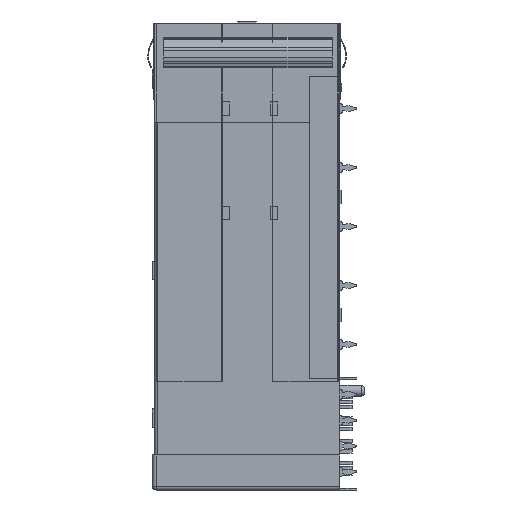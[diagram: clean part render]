
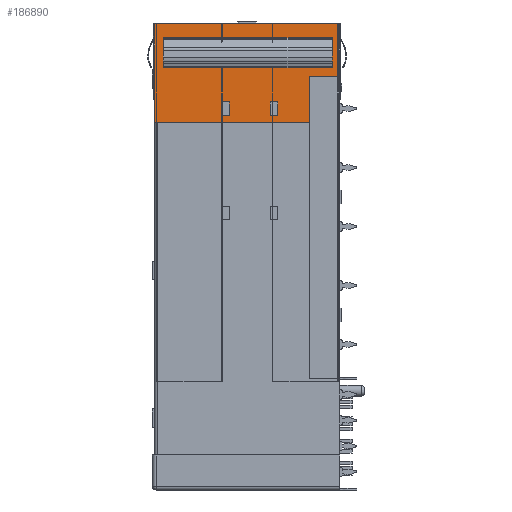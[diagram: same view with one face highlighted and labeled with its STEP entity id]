
A CAD part, left-side view. The second image highlights one B-rep face of the part: STEP entity #186890.
In plain terms, the highlighted planar face has unit normal (-1, 0, 0).
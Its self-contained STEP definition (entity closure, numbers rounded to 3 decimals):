
#3290 = CARTESIAN_POINT ( 'NONE',  ( -85.75, 4.1, -13.4 ) ) ;
#4496 = ORIENTED_EDGE ( 'NONE', *, *, #221748, .T. ) ;
#5109 = EDGE_CURVE ( 'NONE', #61544, #203919, #84224, .T. ) ;
#6287 = CARTESIAN_POINT ( 'NONE',  ( -85.75, 25.1, 0. ) ) ;
#6503 = EDGE_CURVE ( 'NONE', #62899, #101617, #46810, .T. ) ;
#9929 = VECTOR ( 'NONE', #197102, 1000. ) ;
#12576 = VERTEX_POINT ( 'NONE', #88617 ) ;
#27555 = DIRECTION ( 'NONE',  ( 0., 0., 1. ) ) ;
#29299 = CARTESIAN_POINT ( 'NONE',  ( -85.75, 4.1, 0. ) ) ;
#38853 = LINE ( 'NONE', #236778, #78860 ) ;
#40020 = CARTESIAN_POINT ( 'NONE',  ( -85.75, 0.1, -7.1 ) ) ;
#42141 = CARTESIAN_POINT ( 'NONE',  ( -85.75, 1.05, -2.181 ) ) ;
#43588 = CARTESIAN_POINT ( 'NONE',  ( -85.75, 16., -10.6 ) ) ;
#43728 = LINE ( 'NONE', #204482, #207304 ) ;
#46810 = LINE ( 'NONE', #196179, #9929 ) ;
#47592 = DIRECTION ( 'NONE',  ( 0., 0., -1. ) ) ;
#54723 = CARTESIAN_POINT ( 'NONE',  ( -85.75, 15., -10.6 ) ) ;
#56077 = LINE ( 'NONE', #173270, #106074 ) ;
#56427 = LINE ( 'NONE', #93618, #266545 ) ;
#56984 = VERTEX_POINT ( 'NONE', #105960 ) ;
#59899 = EDGE_LOOP ( 'NONE', ( #261047, #215066, #60477, #186480 ) ) ;
#60477 = ORIENTED_EDGE ( 'NONE', *, *, #174240, .T. ) ;
#61427 = EDGE_CURVE ( 'NONE', #265617, #191544, #123913, .T. ) ;
#61544 = VERTEX_POINT ( 'NONE', #131507 ) ;
#62899 = VERTEX_POINT ( 'NONE', #67435 ) ;
#66507 = EDGE_LOOP ( 'NONE', ( #94278, #165247, #126407, #142136 ) ) ;
#67435 = CARTESIAN_POINT ( 'NONE',  ( -85.75, 16., -12.4 ) ) ;
#68377 = VECTOR ( 'NONE', #160784, 1000. ) ;
#74154 = EDGE_CURVE ( 'NONE', #191616, #62899, #56077, .T. ) ;
#78860 = VECTOR ( 'NONE', #196647, 1000. ) ;
#79139 = LINE ( 'NONE', #133734, #256140 ) ;
#81978 = VERTEX_POINT ( 'NONE', #144191 ) ;
#82102 = LINE ( 'NONE', #213131, #185775 ) ;
#84224 = LINE ( 'NONE', #257382, #167791 ) ;
#85246 = DIRECTION ( 'NONE',  ( 0., 1., 0. ) ) ;
#85804 = EDGE_CURVE ( 'NONE', #225330, #61544, #79139, .T. ) ;
#87100 = VECTOR ( 'NONE', #92296, 1000. ) ;
#88617 = CARTESIAN_POINT ( 'NONE',  ( -85.75, 23.95, -1.9 ) ) ;
#89349 = EDGE_LOOP ( 'NONE', ( #127933, #4496, #193826, #165682 ) ) ;
#91412 = CARTESIAN_POINT ( 'NONE',  ( -85.75, 0., 0. ) ) ;
#92296 = DIRECTION ( 'NONE',  ( 0., 1., 0. ) ) ;
#92703 = DIRECTION ( 'NONE',  ( 0., 0., -1. ) ) ;
#93618 = CARTESIAN_POINT ( 'NONE',  ( -85.75, 1.05, -1.9 ) ) ;
#94278 = ORIENTED_EDGE ( 'NONE', *, *, #135115, .F. ) ;
#94767 = CARTESIAN_POINT ( 'NONE',  ( -85.75, 8.45, -12.4 ) ) ;
#97085 = ORIENTED_EDGE ( 'NONE', *, *, #5109, .T. ) ;
#97221 = CARTESIAN_POINT ( 'NONE',  ( -85.75, 0.1, 0. ) ) ;
#97414 = ORIENTED_EDGE ( 'NONE', *, *, #134260, .T. ) ;
#98740 = EDGE_LOOP ( 'NONE', ( #252980, #262486, #141874, #97414, #166478, #97085 ) ) ;
#101190 = LINE ( 'NONE', #189484, #124456 ) ;
#101617 = VERTEX_POINT ( 'NONE', #43588 ) ;
#103550 = DIRECTION ( 'NONE',  ( 0., 0., -1. ) ) ;
#103603 = LINE ( 'NONE', #42141, #87100 ) ;
#105960 = CARTESIAN_POINT ( 'NONE',  ( -85.75, 1.05, -2.181 ) ) ;
#106074 = VECTOR ( 'NONE', #238510, 1000. ) ;
#111894 = VECTOR ( 'NONE', #27555, 1000. ) ;
#114510 = CARTESIAN_POINT ( 'NONE',  ( -85.75, 9.45, -12.4 ) ) ;
#114511 = FACE_BOUND ( 'NONE', #59899, .T. ) ;
#116397 = DIRECTION ( 'NONE',  ( 0., 1., 0. ) ) ;
#123913 = LINE ( 'NONE', #97221, #180745 ) ;
#124456 = VECTOR ( 'NONE', #103550, 1000. ) ;
#125591 = AXIS2_PLACEMENT_3D ( 'NONE', #91412, #219276, #47592 ) ;
#126407 = ORIENTED_EDGE ( 'NONE', *, *, #247870, .T. ) ;
#127092 = VERTEX_POINT ( 'NONE', #114510 ) ;
#127933 = ORIENTED_EDGE ( 'NONE', *, *, #128421, .T. ) ;
#128421 = EDGE_CURVE ( 'NONE', #127092, #260129, #178616, .T. ) ;
#129646 = PLANE ( 'NONE',  #125591 ) ;
#131507 = CARTESIAN_POINT ( 'NONE',  ( -85.75, 25.1, -13.4 ) ) ;
#133734 = CARTESIAN_POINT ( 'NONE',  ( -85.75, 25.1, 0. ) ) ;
#134260 = EDGE_CURVE ( 'NONE', #191544, #225330, #82102, .T. ) ;
#135115 = EDGE_CURVE ( 'NONE', #172280, #12576, #241978, .T. ) ;
#137795 = CARTESIAN_POINT ( 'NONE',  ( -85.75, 8.45, -10.6 ) ) ;
#138336 = CARTESIAN_POINT ( 'NONE',  ( -85.75, 23.95, -2.181 ) ) ;
#141874 = ORIENTED_EDGE ( 'NONE', *, *, #61427, .T. ) ;
#142136 = ORIENTED_EDGE ( 'NONE', *, *, #222698, .F. ) ;
#144191 = CARTESIAN_POINT ( 'NONE',  ( -85.75, 4.1, -7.1 ) ) ;
#145095 = VECTOR ( 'NONE', #207473, 1000. ) ;
#146557 = EDGE_CURVE ( 'NONE', #203919, #81978, #238277, .T. ) ;
#148790 = CARTESIAN_POINT ( 'NONE',  ( -85.75, 9.45, 0. ) ) ;
#151778 = LINE ( 'NONE', #274460, #145095 ) ;
#153976 = EDGE_CURVE ( 'NONE', #101617, #261885, #43728, .T. ) ;
#156199 = VERTEX_POINT ( 'NONE', #138336 ) ;
#157418 = DIRECTION ( 'NONE',  ( 0., -1., 0. ) ) ;
#160784 = DIRECTION ( 'NONE',  ( 0., 0., -1. ) ) ;
#161535 = VERTEX_POINT ( 'NONE', #94767 ) ;
#163048 = CARTESIAN_POINT ( 'NONE',  ( -85.75, 15., -12.4 ) ) ;
#165247 = ORIENTED_EDGE ( 'NONE', *, *, #205504, .T. ) ;
#165682 = ORIENTED_EDGE ( 'NONE', *, *, #263464, .T. ) ;
#166478 = ORIENTED_EDGE ( 'NONE', *, *, #85804, .T. ) ;
#167791 = VECTOR ( 'NONE', #157418, 1000. ) ;
#172280 = VERTEX_POINT ( 'NONE', #276381 ) ;
#173270 = CARTESIAN_POINT ( 'NONE',  ( -85.75, 0., -12.4 ) ) ;
#174240 = EDGE_CURVE ( 'NONE', #261885, #191616, #198857, .T. ) ;
#178011 = FACE_OUTER_BOUND ( 'NONE', #98740, .T. ) ;
#178485 = DIRECTION ( 'NONE',  ( 0., 0., 1. ) ) ;
#178546 = VECTOR ( 'NONE', #116397, 1000. ) ;
#178616 = LINE ( 'NONE', #148790, #111894 ) ;
#180745 = VECTOR ( 'NONE', #267964, 1000. ) ;
#183167 = CARTESIAN_POINT ( 'NONE',  ( -85.75, 8.45, 0. ) ) ;
#185775 = VECTOR ( 'NONE', #85246, 1000. ) ;
#186480 = ORIENTED_EDGE ( 'NONE', *, *, #74154, .T. ) ;
#186890 = ADVANCED_FACE ( 'NONE', ( #274897, #114511, #254799, #178011 ), #129646, .F. ) ;
#189484 = CARTESIAN_POINT ( 'NONE',  ( -85.75, 23.95, -1.9 ) ) ;
#191544 = VERTEX_POINT ( 'NONE', #246104 ) ;
#191616 = VERTEX_POINT ( 'NONE', #163048 ) ;
#193826 = ORIENTED_EDGE ( 'NONE', *, *, #276376, .T. ) ;
#196179 = CARTESIAN_POINT ( 'NONE',  ( -85.75, 16., 0. ) ) ;
#196373 = DIRECTION ( 'NONE',  ( 0., 0., -1. ) ) ;
#196647 = DIRECTION ( 'NONE',  ( 0., 1., 0. ) ) ;
#197102 = DIRECTION ( 'NONE',  ( 0., 0., 1. ) ) ;
#198857 = LINE ( 'NONE', #243466, #238938 ) ;
#201452 = CARTESIAN_POINT ( 'NONE',  ( -85.75, 1.05, -1.9 ) ) ;
#203919 = VERTEX_POINT ( 'NONE', #3290 ) ;
#204482 = CARTESIAN_POINT ( 'NONE',  ( -85.75, 0., -10.6 ) ) ;
#205302 = LINE ( 'NONE', #183167, #68377 ) ;
#205504 = EDGE_CURVE ( 'NONE', #172280, #56984, #56427, .T. ) ;
#207299 = DIRECTION ( 'NONE',  ( 0., -1., 0. ) ) ;
#207304 = VECTOR ( 'NONE', #207299, 1000. ) ;
#207473 = DIRECTION ( 'NONE',  ( 0., -1., 0. ) ) ;
#213131 = CARTESIAN_POINT ( 'NONE',  ( -85.75, 25.3, 0. ) ) ;
#215066 = ORIENTED_EDGE ( 'NONE', *, *, #153976, .T. ) ;
#219276 = DIRECTION ( 'NONE',  ( 1., 0., 0. ) ) ;
#221748 = EDGE_CURVE ( 'NONE', #260129, #229189, #151778, .T. ) ;
#222698 = EDGE_CURVE ( 'NONE', #12576, #156199, #101190, .T. ) ;
#225330 = VERTEX_POINT ( 'NONE', #6287 ) ;
#229189 = VERTEX_POINT ( 'NONE', #137795 ) ;
#230298 = DIRECTION ( 'NONE',  ( 0., -1., 0. ) ) ;
#236778 = CARTESIAN_POINT ( 'NONE',  ( -85.75, 0., -12.4 ) ) ;
#238277 = LINE ( 'NONE', #29299, #254881 ) ;
#238510 = DIRECTION ( 'NONE',  ( 0., 1., 0. ) ) ;
#238938 = VECTOR ( 'NONE', #269467, 1000. ) ;
#241978 = LINE ( 'NONE', #201452, #178546 ) ;
#243466 = CARTESIAN_POINT ( 'NONE',  ( -85.75, 15., 0. ) ) ;
#246104 = CARTESIAN_POINT ( 'NONE',  ( -85.75, 0.1, 0. ) ) ;
#247870 = EDGE_CURVE ( 'NONE', #56984, #156199, #103603, .T. ) ;
#248048 = CARTESIAN_POINT ( 'NONE',  ( -85.75, 9.45, -10.6 ) ) ;
#248174 = EDGE_CURVE ( 'NONE', #81978, #265617, #250422, .T. ) ;
#248937 = CARTESIAN_POINT ( 'NONE',  ( -85.75, 0., -7.1 ) ) ;
#250422 = LINE ( 'NONE', #248937, #257089 ) ;
#252980 = ORIENTED_EDGE ( 'NONE', *, *, #146557, .T. ) ;
#254799 = FACE_BOUND ( 'NONE', #66507, .T. ) ;
#254881 = VECTOR ( 'NONE', #178485, 1000. ) ;
#256140 = VECTOR ( 'NONE', #196373, 1000. ) ;
#257089 = VECTOR ( 'NONE', #230298, 1000. ) ;
#257382 = CARTESIAN_POINT ( 'NONE',  ( -85.75, 25.2, -13.4 ) ) ;
#260129 = VERTEX_POINT ( 'NONE', #248048 ) ;
#261047 = ORIENTED_EDGE ( 'NONE', *, *, #6503, .T. ) ;
#261885 = VERTEX_POINT ( 'NONE', #54723 ) ;
#262486 = ORIENTED_EDGE ( 'NONE', *, *, #248174, .T. ) ;
#263464 = EDGE_CURVE ( 'NONE', #161535, #127092, #38853, .T. ) ;
#265617 = VERTEX_POINT ( 'NONE', #40020 ) ;
#266545 = VECTOR ( 'NONE', #92703, 1000. ) ;
#267964 = DIRECTION ( 'NONE',  ( 0., 0., 1. ) ) ;
#269467 = DIRECTION ( 'NONE',  ( 0., 0., -1. ) ) ;
#274460 = CARTESIAN_POINT ( 'NONE',  ( -85.75, 0., -10.6 ) ) ;
#274897 = FACE_BOUND ( 'NONE', #89349, .T. ) ;
#276376 = EDGE_CURVE ( 'NONE', #229189, #161535, #205302, .T. ) ;
#276381 = CARTESIAN_POINT ( 'NONE',  ( -85.75, 1.05, -1.9 ) ) ;
